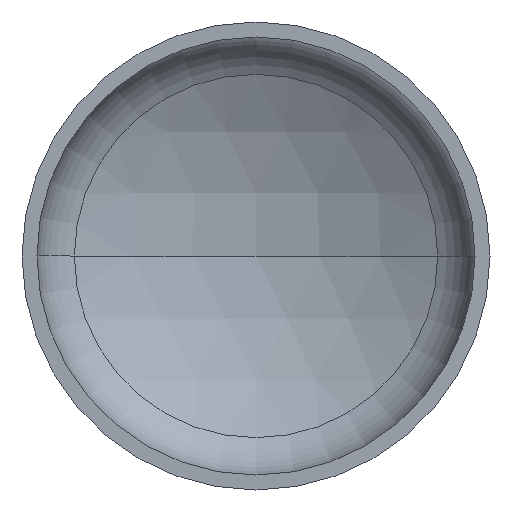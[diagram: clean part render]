
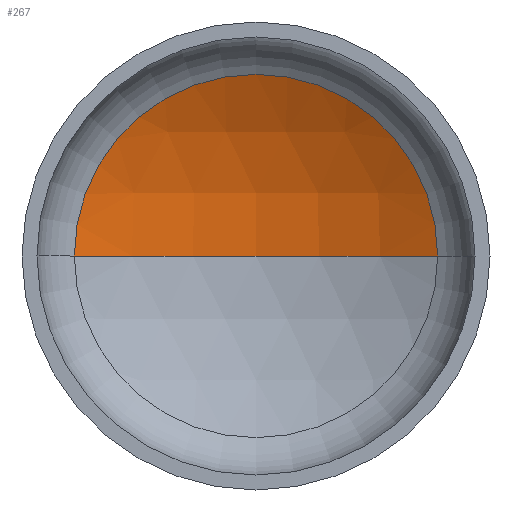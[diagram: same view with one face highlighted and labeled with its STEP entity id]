
A CAD part, front view. The second image highlights one B-rep face of the part: STEP entity #267.
In plain terms, the highlighted spherical face has radius 800 mm.
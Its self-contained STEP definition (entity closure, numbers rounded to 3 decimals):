
#3 = VERTEX_POINT ( 'NONE', #263 ) ;
#10 = DIRECTION ( 'NONE',  ( 0., -1., 0. ) ) ;
#21 = AXIS2_PLACEMENT_3D ( 'NONE', #194, #80, #391 ) ;
#23 = ORIENTED_EDGE ( 'NONE', *, *, #165, .F. ) ;
#26 = EDGE_LOOP ( 'NONE', ( #23, #127, #292 ) ) ;
#30 = AXIS2_PLACEMENT_3D ( 'NONE', #268, #266, #286 ) ;
#31 = AXIS2_PLACEMENT_3D ( 'NONE', #253, #273, #91 ) ;
#41 = AXIS2_PLACEMENT_3D ( 'NONE', #204, #10, #153 ) ;
#53 = VERTEX_POINT ( 'NONE', #371 ) ;
#80 = DIRECTION ( 'NONE',  ( 0., 0., -1. ) ) ;
#91 = DIRECTION ( 'NONE',  ( -1., 0., 0. ) ) ;
#93 = FACE_OUTER_BOUND ( 'NONE', #26, .T. ) ;
#102 = EDGE_CURVE ( 'NONE', #136, #3, #396, .T. ) ;
#127 = ORIENTED_EDGE ( 'NONE', *, *, #142, .T. ) ;
#136 = VERTEX_POINT ( 'NONE', #148 ) ;
#142 = EDGE_CURVE ( 'NONE', #53, #136, #272, .T. ) ;
#148 = CARTESIAN_POINT ( 'NONE',  ( 388.217, 235.526, 0. ) ) ;
#153 = DIRECTION ( 'NONE',  ( 1., 0., 0. ) ) ;
#165 = EDGE_CURVE ( 'NONE', #53, #3, #328, .T. ) ;
#194 = CARTESIAN_POINT ( 'NONE',  ( 0., -463.965, 0. ) ) ;
#204 = CARTESIAN_POINT ( 'NONE',  ( 0., 235.526, 0. ) ) ;
#253 = CARTESIAN_POINT ( 'NONE',  ( 0., -463.965, 0. ) ) ;
#263 = CARTESIAN_POINT ( 'NONE',  ( -388.217, 235.526, 0. ) ) ;
#266 = DIRECTION ( 'NONE',  ( 0., 0., 1. ) ) ;
#267 = ADVANCED_FACE ( 'NONE', ( #93 ), #383, .F. ) ;
#268 = CARTESIAN_POINT ( 'NONE',  ( 0., -463.965, 0. ) ) ;
#272 = CIRCLE ( 'NONE', #31, 800. ) ;
#273 = DIRECTION ( 'NONE',  ( 0., 0., -1. ) ) ;
#286 = DIRECTION ( 'NONE',  ( 1., 0., 0. ) ) ;
#292 = ORIENTED_EDGE ( 'NONE', *, *, #102, .T. ) ;
#328 = CIRCLE ( 'NONE', #30, 800. ) ;
#371 = CARTESIAN_POINT ( 'NONE',  ( 0., 336.035, 0. ) ) ;
#383 = SPHERICAL_SURFACE ( 'NONE', #21, 800. ) ;
#391 = DIRECTION ( 'NONE',  ( -1., 0., 0. ) ) ;
#396 = CIRCLE ( 'NONE', #41, 388.217 ) ;
